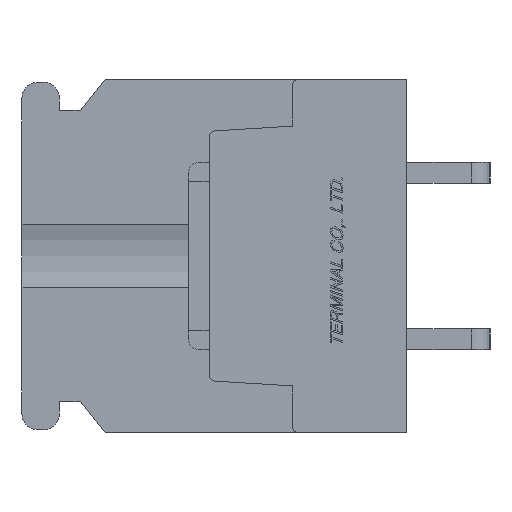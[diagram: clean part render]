
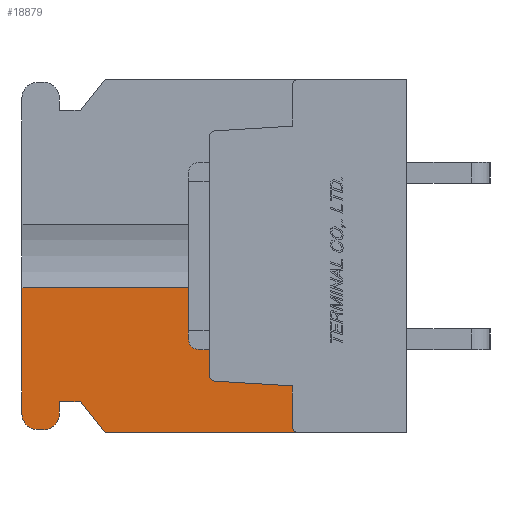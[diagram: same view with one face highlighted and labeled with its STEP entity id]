
A CAD part, left-side view. The second image highlights one B-rep face of the part: STEP entity #18879.
In plain terms, the highlighted planar face has unit normal (-1, 0, 0).
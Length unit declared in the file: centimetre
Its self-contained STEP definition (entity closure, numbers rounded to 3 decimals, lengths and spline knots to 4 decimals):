
#817=CIRCLE('',#32182,0.075);
#818=CIRCLE('',#32183,0.075);
#819=CIRCLE('',#32184,0.03);
#820=CIRCLE('',#32185,0.03);
#1797=VERTEX_POINT('',#26887);
#1798=VERTEX_POINT('',#26888);
#1799=VERTEX_POINT('',#26890);
#1800=VERTEX_POINT('',#26892);
#1801=VERTEX_POINT('',#26894);
#1802=VERTEX_POINT('',#26896);
#1803=VERTEX_POINT('',#26898);
#1804=VERTEX_POINT('',#26900);
#1805=VERTEX_POINT('',#26902);
#1806=VERTEX_POINT('',#26904);
#1807=VERTEX_POINT('',#26906);
#1808=VERTEX_POINT('',#26908);
#1809=VERTEX_POINT('',#26910);
#1810=VERTEX_POINT('',#26912);
#3830=VECTOR('',#21416,1.);
#3831=VECTOR('',#21417,1.);
#3832=VECTOR('',#21418,1.);
#3833=VECTOR('',#21421,1.);
#3834=VECTOR('',#21424,1.);
#3835=VECTOR('',#21425,1.);
#3836=VECTOR('',#21426,1.);
#3837=VECTOR('',#21427,1.);
#3838=VECTOR('',#21430,1.);
#3839=VECTOR('',#21431,1.);
#5923=LINE('',#26886,#3830);
#5924=LINE('',#26889,#3831);
#5925=LINE('',#26891,#3832);
#5926=LINE('',#26895,#3833);
#5927=LINE('',#26899,#3834);
#5928=LINE('',#26901,#3835);
#5929=LINE('',#26903,#3836);
#5930=LINE('',#26905,#3837);
#5931=LINE('',#26909,#3838);
#5932=LINE('',#26911,#3839);
#8185=EDGE_CURVE('',#1797,#1798,#5923,.T.);
#8186=EDGE_CURVE('',#1797,#1799,#5924,.T.);
#8187=EDGE_CURVE('',#1800,#1799,#5925,.T.);
#8188=EDGE_CURVE('',#1801,#1800,#817,.T.);
#8189=EDGE_CURVE('',#1802,#1801,#5926,.T.);
#8190=EDGE_CURVE('',#1803,#1802,#818,.T.);
#8191=EDGE_CURVE('',#1804,#1803,#5927,.T.);
#8192=EDGE_CURVE('',#1805,#1804,#5928,.T.);
#8193=EDGE_CURVE('',#1806,#1805,#5929,.T.);
#8194=EDGE_CURVE('',#1807,#1806,#5930,.T.);
#8195=EDGE_CURVE('',#1808,#1807,#819,.T.);
#8196=EDGE_CURVE('',#1809,#1808,#5931,.T.);
#8197=EDGE_CURVE('',#1810,#1809,#5932,.T.);
#8198=EDGE_CURVE('',#1798,#1810,#820,.T.);
#11810=ORIENTED_EDGE('',*,*,#8185,.F.);
#11811=ORIENTED_EDGE('',*,*,#8186,.T.);
#11812=ORIENTED_EDGE('',*,*,#8187,.F.);
#11813=ORIENTED_EDGE('',*,*,#8188,.F.);
#11814=ORIENTED_EDGE('',*,*,#8189,.F.);
#11815=ORIENTED_EDGE('',*,*,#8190,.F.);
#11816=ORIENTED_EDGE('',*,*,#8191,.F.);
#11817=ORIENTED_EDGE('',*,*,#8192,.F.);
#11818=ORIENTED_EDGE('',*,*,#8193,.F.);
#11819=ORIENTED_EDGE('',*,*,#8194,.F.);
#11820=ORIENTED_EDGE('',*,*,#8195,.F.);
#11821=ORIENTED_EDGE('',*,*,#8196,.F.);
#11822=ORIENTED_EDGE('',*,*,#8197,.F.);
#11823=ORIENTED_EDGE('',*,*,#8198,.F.);
#16494=EDGE_LOOP('',(#11810,#11811,#11812,#11813,#11814,#11815,#11816,#11817,
#11818,#11819,#11820,#11821,#11822,#11823));
#17710=FACE_BOUND('',#16494,.T.);
#18879=ADVANCED_FACE('',(#17710),#19879,.F.);
#19879=PLANE('',#32181);
#21415=DIRECTION('',(1.,0.,0.));
#21416=DIRECTION('',(0.,0.,-1.));
#21417=DIRECTION('',(0.,1.,0.));
#21418=DIRECTION('',(0.,0.,1.));
#21419=DIRECTION('',(1.,0.,0.));
#21420=DIRECTION('',(0.,0.,-0.075));
#21421=DIRECTION('',(0.,1.,0.));
#21422=DIRECTION('',(1.,0.,0.));
#21423=DIRECTION('',(0.,0.,-0.075));
#21424=DIRECTION('',(0.,0.,-1.));
#21425=DIRECTION('',(0.,1.,0.));
#21426=DIRECTION('',(0.,0.625,0.781));
#21427=DIRECTION('',(0.,1.,0.));
#21428=DIRECTION('',(-1.,0.,0.));
#21429=DIRECTION('',(0.,0.,0.03));
#21430=DIRECTION('',(0.,0.,-1.));
#21431=DIRECTION('',(0.,-0.998,-0.061));
#21432=DIRECTION('',(-1.,0.,0.));
#21433=DIRECTION('',(0.,0.,0.03));
#26885=CARTESIAN_POINT('',(-1.1,0.9454,0.));
#26886=CARTESIAN_POINT('',(-1.1,0.95,0.5718));
#26887=CARTESIAN_POINT('',(-1.1,0.95,-0.1521));
#26888=CARTESIAN_POINT('',(-1.1,0.95,-0.5718));
#26889=CARTESIAN_POINT('',(-1.1,1.4,-0.1521));
#26890=CARTESIAN_POINT('',(-1.1,1.85,-0.1521));
#26891=CARTESIAN_POINT('',(-1.1,1.85,-0.76));
#26892=CARTESIAN_POINT('',(-1.1,1.85,-0.76));
#26893=CARTESIAN_POINT('',(-1.1,1.775,-0.76));
#26894=CARTESIAN_POINT('',(-1.1,1.775,-0.835));
#26895=CARTESIAN_POINT('',(-1.1,1.745,-0.835));
#26896=CARTESIAN_POINT('',(-1.1,1.745,-0.835));
#26897=CARTESIAN_POINT('',(-1.1,1.745,-0.76));
#26898=CARTESIAN_POINT('',(-1.1,1.67,-0.76));
#26899=CARTESIAN_POINT('',(-1.1,1.67,-0.7));
#26900=CARTESIAN_POINT('',(-1.1,1.67,-0.7));
#26901=CARTESIAN_POINT('',(-1.1,1.57,-0.7));
#26902=CARTESIAN_POINT('',(-1.1,1.57,-0.7));
#26903=CARTESIAN_POINT('',(-1.1,1.45,-0.85));
#26904=CARTESIAN_POINT('',(-1.1,1.45,-0.85));
#26905=CARTESIAN_POINT('',(-1.1,0.,-0.85));
#26906=CARTESIAN_POINT('',(-1.1,0.52,-0.85));
#26907=CARTESIAN_POINT('',(-1.1,0.52,-0.82));
#26908=CARTESIAN_POINT('',(-1.1,0.55,-0.82));
#26909=CARTESIAN_POINT('',(-1.1,0.55,-0.6245));
#26910=CARTESIAN_POINT('',(-1.1,0.55,-0.6245));
#26911=CARTESIAN_POINT('',(-1.1,0.9218,-0.6017));
#26912=CARTESIAN_POINT('',(-1.1,0.9218,-0.6017));
#26913=CARTESIAN_POINT('',(-1.1,0.92,-0.5718));
#32181=AXIS2_PLACEMENT_3D('',#26885,#21415,$);
#32182=AXIS2_PLACEMENT_3D('',#26893,#21419,#21420);
#32183=AXIS2_PLACEMENT_3D('',#26897,#21422,#21423);
#32184=AXIS2_PLACEMENT_3D('',#26907,#21428,#21429);
#32185=AXIS2_PLACEMENT_3D('',#26913,#21432,#21433);
